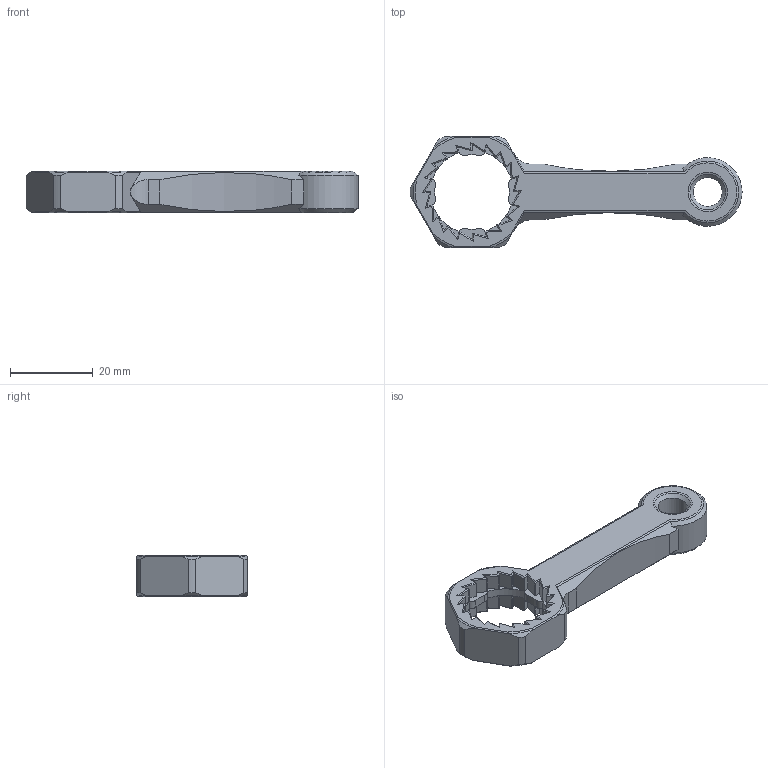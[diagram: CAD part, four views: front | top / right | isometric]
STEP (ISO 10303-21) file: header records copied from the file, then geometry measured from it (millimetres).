
FILE_DESCRIPTION( ( 'Unknown' ), '1' );
FILE_NAME( 'C:/Users/kcleven/Desktop/printer/ratchet/handle.stp', 'Unknown', ( 'Unknown' ), ( 'Unknown' ), 'PSStep 16.0.42', 'Unknown', ' ' );
FILE_SCHEMA( ( 'AUTOMOTIVE_DESIGN { 1 0 10303 214 1 1 1 1 }' ) );
Length unit declared in the file: millimetre
Products named in the file (1): 1
Bounding box: 80.28 x 26.85 x 10 mm (x, y, z)
Volume: 8369 mm3; surface area: 4873.2 mm2
Topology: 1 solids, 1 shells, 341 faces, 924 edges, 591 vertices
Faces by surface type: plane 238, cylinder 43, extrusion 34, cone 26
Full cylindrical faces by diameter (mm): 7 x1
Entity records: 15022 total; most frequent: CARTESIAN_POINT 3871, ORIENTED_EDGE 1836, DIRECTION 1610, EDGE_CURVE 918, VECTOR 602, VERTEX_POINT 589, LINE 568, AXIS2_PLACEMENT_3D 504
